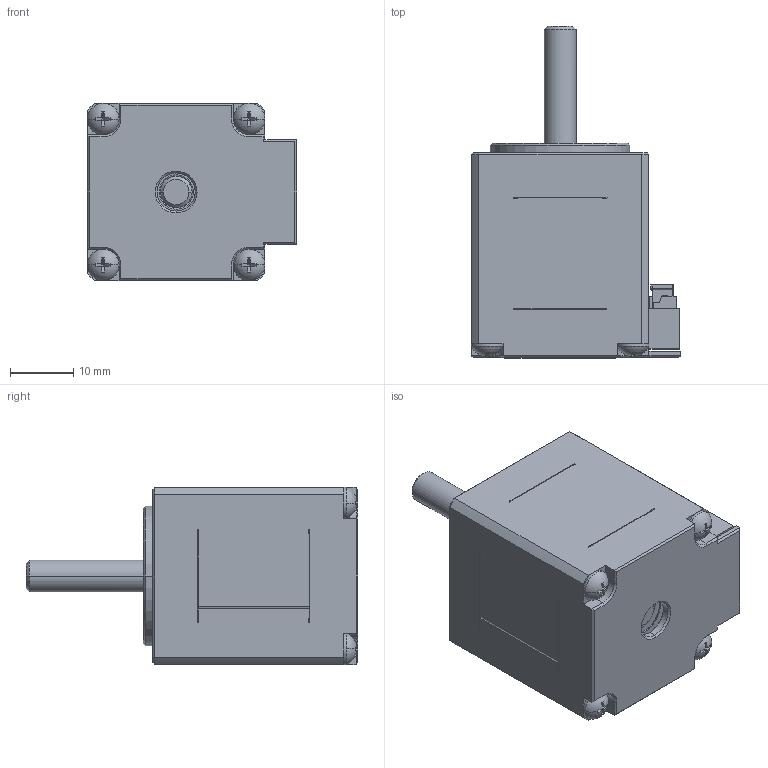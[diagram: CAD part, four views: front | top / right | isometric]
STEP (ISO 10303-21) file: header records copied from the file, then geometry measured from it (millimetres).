
FILE_DESCRIPTION((''),'2;1');
FILE_NAME('28STC32','2020-10-14T10:09:01',('zhangjq'),(''),'CREO PARAMETRIC BY PTC INC, 2017110','CREO PARAMETRIC BY PTC INC, 2017110','');
FILE_SCHEMA(('CONFIG_CONTROL_DESIGN'));
Products named in the file (1): 28STC32
Bounding box: 33 x 52.3 x 28 mm (x, y, z)
Volume: 15502.3 mm3; surface area: 22602.2 mm2
Topology: 2 solids, 2 shells, 2236 faces, 6554 edges, 4165 vertices
Faces by surface type: plane 1630, cylinder 492, cone 64, torus 28, bspline 14, sphere 8
Entity records: 74450 total; most frequent: CARTESIAN_POINT 13734, ORIENTED_EDGE 13108, DIRECTION 12391, EDGE_CURVE 6554, VECTOR 5033, LINE 5033, VERTEX_POINT 4165, AXIS2_PLACEMENT_3D 3679
